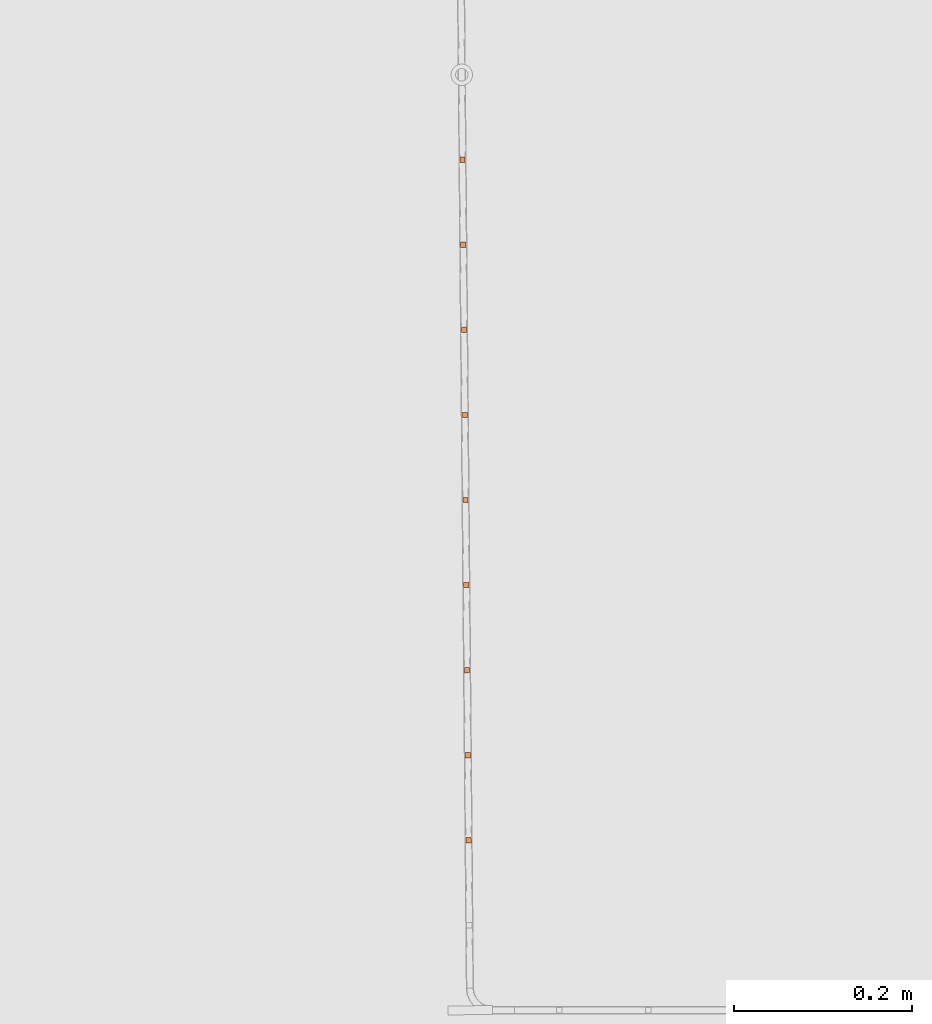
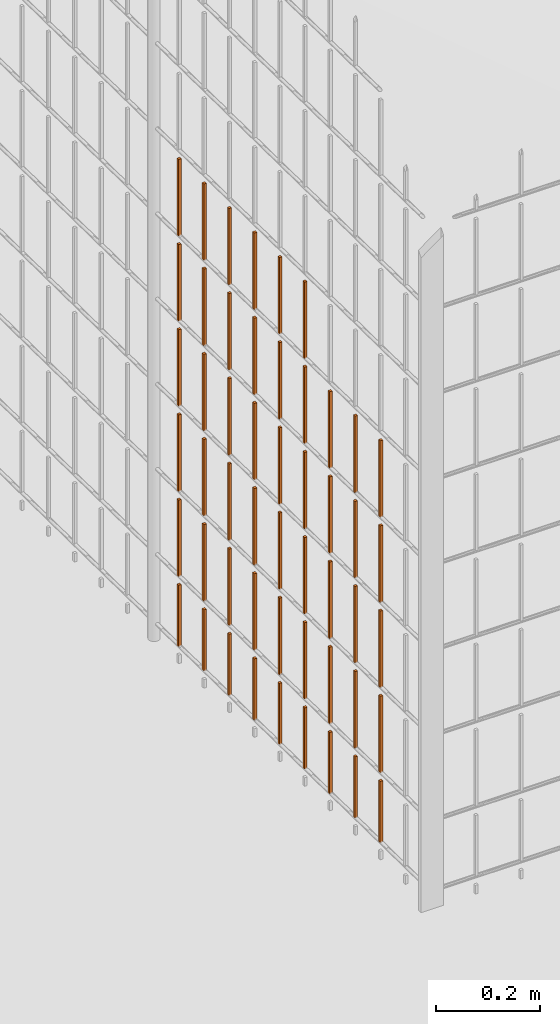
# One storey, part 242 of 1809: 51 proxies, 1 element without a shape of its own.
"""IFC2X3 building model written with IfcOpenShell, lengths in millimetres."""

import ifcopenshell
import ifcopenshell.guid

model = None  # the IFC model being written
_history = None  # IfcOwnerHistory: only IFC2X3 demands one
_inside = {}  # id of a spatial element -> (the spatial element, [elements in it])
_under = {}  # id of a project, library or spatial element -> (it, [spatial elements below it])
_declared = {}  # id of a project -> (the project, [libraries it declares])
_typed = {}  # id of a type object -> (the type object, [elements of that type])
_made_of = {}  # id of a material, layer set ... -> (it, [elements and type objects made of it])


def new_model(schema):
    """Start an empty IFC model of exactly this schema.

    Asked for "IFC4X3", IfcOpenShell would pick the latest addendum, in which some entities
    have other attributes; the version numbers below select the first issue.
    IFC2X3 requires an IfcOwnerHistory on every rooted entity: one is made here for all.
    """
    global model, _history
    if schema == "IFC4X3":
        model = ifcopenshell.file(schema_version=(4, 3, 0, 0))
    else:
        model = ifcopenshell.file(schema=schema)
    _inside.clear()
    _under.clear()
    _declared.clear()
    _typed.clear()
    _made_of.clear()
    _history = None
    if model.schema == "IFC2X3":
        org = make("IfcOrganization", Name="unknown")
        user = make(
            "IfcPersonAndOrganization",
            ThePerson=make("IfcPerson", FamilyName="unknown"),
            TheOrganization=org,
        )
        app = make(
            "IfcApplication",
            ApplicationDeveloper=org,
            Version="unknown",
            ApplicationFullName="unknown",
            ApplicationIdentifier="unknown",
        )
        _history = make(
            "IfcOwnerHistory",
            OwningUser=user,
            OwningApplication=app,
            ChangeAction="ADDED",
            CreationDate=0,
        )
    return model


def make(cls, **values):
    """One entity of the class cls with the attributes given. An attribute that is None is left unset."""
    return model.create_entity(
        cls, **{name: value for name, value in values.items() if value is not None}
    )


def entity(cls, *values):
    """Any entity or typed value of the class cls, its attributes in the order of the schema. None: left unset."""
    e = model.create_entity(cls)
    for i, value in enumerate(values):
        if value is not None:
            e[i] = value
    return e


def rooted(cls, **values):
    """An entity with a GlobalId (a new one), such as an element, a storey or a relation."""
    return make(cls, GlobalId=ifcopenshell.guid.new(), OwnerHistory=_history, **values)


def si_unit(unit_type, name, prefix=None):
    """IfcSIUnit, for example si_unit("LENGTHUNIT", "METRE", prefix="MILLI")."""
    return make("IfcSIUnit", UnitType=unit_type, Prefix=prefix, Name=name)


def converted_unit(unit_type, name, factor, base, dimensions=None, offset=None):
    """IfcConversionBasedUnit, such as the inch: factor (a typed value) times the base unit."""
    return make(
        "IfcConversionBasedUnit"
        if offset is None
        else "IfcConversionBasedUnitWithOffset",
        ConversionOffset=offset,
        Dimensions=None
        if dimensions is None
        else entity("IfcDimensionalExponents", *dimensions),
        UnitType=unit_type,
        Name=name,
        ConversionFactor=make(
            "IfcMeasureWithUnit", ValueComponent=factor, UnitComponent=base
        ),
    )


def derived_unit(unit_type, elements):
    """IfcDerivedUnit: a product of units, each with its exponent."""
    return make(
        "IfcDerivedUnit",
        Elements=[
            make("IfcDerivedUnitElement", Unit=unit, Exponent=power)
            for unit, power in elements
        ],
        UnitType=unit_type,
    )


def money_unit(currency):
    """IfcMonetaryUnit."""
    return make("IfcMonetaryUnit", Currency=currency)


def assignment(units):
    """IfcUnitAssignment: the units of a project."""
    return None if units is None else make("IfcUnitAssignment", Units=units)


def point(xyz):
    """IfcCartesianPoint."""
    return None if xyz is None else make("IfcCartesianPoint", Coordinates=xyz)


def direction(xyz):
    """IfcDirection."""
    return None if xyz is None else make("IfcDirection", DirectionRatios=xyz)


def frame(location, z_axis=None, x_axis=None):
    """IfcAxis2Placement3D, a coordinate frame: its origin and axes. An axis left out is left unset."""
    return make(
        "IfcAxis2Placement3D",
        Location=point(location),
        Axis=direction(z_axis),
        RefDirection=direction(x_axis),
    )


def origin_with_axes():
    """The frame at (0, 0, 0) with the z axis (0, 0, 1) and the x axis (1, 0, 0) written out."""
    return frame((0.0, 0.0, 0.0), z_axis=(0.0, 0.0, 1.0), x_axis=(1.0, 0.0, 0.0))


def place(relative_to, where):
    """IfcLocalPlacement: puts the frame where relative to a parent placement (None: the world)."""
    return make(
        "IfcLocalPlacement", PlacementRelTo=relative_to, RelativePlacement=where
    )


def context(
    kind, dimensions, precision=None, world=None, true_north=None, identifier=None
):
    """IfcGeometricRepresentationContext, for example the 3D "Model" context."""
    return make(
        "IfcGeometricRepresentationContext",
        ContextIdentifier=identifier,
        ContextType=kind,
        CoordinateSpaceDimension=dimensions,
        Precision=precision,
        WorldCoordinateSystem=world,
        TrueNorth=true_north,
    )


def subcontext(parent, identifier, kind, view, scale=None):
    """IfcGeometricRepresentationSubContext, for example "Body" below "Model"."""
    return make(
        "IfcGeometricRepresentationSubContext",
        ContextIdentifier=identifier,
        ContextType=kind,
        ParentContext=parent,
        TargetScale=scale,
        TargetView=view,
    )


def project(units=None, contexts=None):
    """IfcProject with its units and contexts."""
    return rooted(
        "IfcProject",
        Name="project",
        RepresentationContexts=contexts,
        UnitsInContext=assignment(units),
    )


def spatial(cls, under=None, at=None, **own):
    """A site, building, storey or space (cls), placed at a placement, below another one or the project."""
    s = rooted(cls, ObjectPlacement=at, **own)
    if under is not None:
        _under.setdefault(under.id(), (under, []))[1].append(s)
    return s


def faces_of(points, faces, orient=None, outer=None):
    """IfcFace entities. A face is a list of loops; a loop is a list of indices into points, from 0.

    orient and outer hold one flag for each loop. By default every Orientation is true, the
    first loop of a face is its IfcFaceOuterBound and the others are IfcFaceBound.
    """
    made = []
    for i, loops in enumerate(faces):
        bounds = []
        for j, loop in enumerate(loops):
            is_outer = j == 0 if outer is None else outer[i][j]
            bounds.append(
                make(
                    "IfcFaceOuterBound" if is_outer else "IfcFaceBound",
                    Bound=make("IfcPolyLoop", Polygon=[points[k] for k in loop]),
                    Orientation=True if orient is None else orient[i][j],
                )
            )
        made.append(make("IfcFace", Bounds=bounds))
    return made


def faceted_brep(points, faces, orient=None, outer=None, voids=None):
    """IfcFacetedBrep: a solid bounded by flat faces; with voids (closed shells), ...WithVoids."""
    shared = [point(p) for p in points]
    hull = make("IfcClosedShell", CfsFaces=faces_of(shared, faces, orient, outer))
    if voids is None:
        return make("IfcFacetedBrep", Outer=hull)
    return make(
        "IfcFacetedBrepWithVoids",
        Outer=hull,
        Voids=[
            make(cls, CfsFaces=faces_of(shared, fs, o, b)) for cls, fs, o, b in voids
        ],
    )


def shape(context_of_items, identifier, shape_type, items):
    """IfcShapeRepresentation: the items that make up one representation, for example the "Body"."""
    return make(
        "IfcShapeRepresentation",
        ContextOfItems=context_of_items,
        RepresentationIdentifier=identifier,
        RepresentationType=shape_type,
        Items=items,
    )


def source(mapping_origin, context_of_items, identifier, shape_type, items):
    """IfcRepresentationMap: a shape defined once, which mapped items show again and again."""
    return make(
        "IfcRepresentationMap",
        MappingOrigin=mapping_origin,
        MappedRepresentation=shape(context_of_items, identifier, shape_type, items),
    )


def transform(
    local_origin,
    x_axis=None,
    y_axis=None,
    z_axis=None,
    scale=None,
    scale2=None,
    scale3=None,
    uniform=True,
):
    """IfcCartesianTransformationOperator3D, or its non-uniform kind. x_axis, y_axis, z_axis: its Axis1, 2, 3."""
    if uniform:
        return make(
            "IfcCartesianTransformationOperator3D",
            Axis1=direction(x_axis),
            Axis2=direction(y_axis),
            LocalOrigin=point(local_origin),
            Scale=scale,
            Axis3=direction(z_axis),
        )
    return make(
        "IfcCartesianTransformationOperator3DnonUniform",
        Axis1=direction(x_axis),
        Axis2=direction(y_axis),
        LocalOrigin=point(local_origin),
        Scale=scale,
        Axis3=direction(z_axis),
        Scale2=scale2,
        Scale3=scale3,
    )


def mapped(mapping_source, mapping_target):
    """IfcMappedItem: shows the shape of a source again, moved by a transform."""
    return make(
        "IfcMappedItem", MappingSource=mapping_source, MappingTarget=mapping_target
    )


def material(Name=None, Category=None):
    """IfcMaterial."""
    return make("IfcMaterial", Name=Name, Category=Category)


def made_of(thing, what):
    """Note that an element or type object is made of a material, layer set ...; save() writes the relation."""
    if what is not None:
        _made_of.setdefault(what.id(), (what, []))[1].append(thing)
    return thing


def type_object(cls, material=None, **own):
    """A type object (cls), such as IfcWallType, which elements share."""
    return made_of(rooted(cls, **own), material)


def element(
    cls,
    number,
    at=None,
    inside=None,
    cuts=None,
    type_object=None,
    material=None,
    context=None,
    identifier="Body",
    shape_type=None,
    held_by="IfcProductDefinitionShape",
    body=None,
    shapes=None,
    **own,
):
    """One element of the class cls, such as IfcWall. Its Tag is "e" and its number.

    at: its placement. inside: the storey or other place that contains it. cuts: it is an
    opening in that element (IfcRelVoidsElement). A single representation is given by context,
    identifier, shape_type and body (its items); several are given by shapes. held_by: the class
    of the entity that holds the representations. save() writes the other relations.
    """
    e = rooted(cls, Tag="e%d" % number, ObjectPlacement=at, **own)
    if body is not None:
        shapes = [shape(context, identifier, shape_type, body)]
    if shapes is not None:
        e.Representation = make(held_by, Representations=shapes)
    if inside is not None:
        _inside.setdefault(inside.id(), (inside, []))[1].append(e)
    if cuts is not None:
        rooted(
            "IfcRelVoidsElement", RelatingBuildingElement=cuts, RelatedOpeningElement=e
        )
    if type_object is not None:
        _typed.setdefault(type_object.id(), (type_object, []))[1].append(e)
    return made_of(e, material)


def aggregate(whole, parts):
    """IfcRelAggregates: a whole, such as a stair, and the parts it consists of."""
    return rooted("IfcRelAggregates", RelatingObject=whole, RelatedObjects=parts)


def save(model, path):
    """Write the relations noted so far, then the file.

    IfcRelAggregates (storeys below a building ...), IfcRelContainedInSpatialStructure (elements
    in a storey), IfcRelDefinesByType, IfcRelAssociatesMaterial and IfcRelDeclares: one each for
    every whole, place, type object, material and project.
    """
    for whole, parts in _under.values():
        aggregate(whole, parts)
    for where, things in _inside.values():
        rooted(
            "IfcRelContainedInSpatialStructure",
            RelatedElements=things,
            RelatingStructure=where,
        )
    for kind, things in _typed.values():
        rooted("IfcRelDefinesByType", RelatedObjects=things, RelatingType=kind)
    for what, things in _made_of.values():
        rooted("IfcRelAssociatesMaterial", RelatedObjects=things, RelatingMaterial=what)
    for by, libraries in _declared.values():
        rooted("IfcRelDeclares", RelatingContext=by, RelatedDefinitions=libraries)
    model.write(path)


model = new_model("IFC2X3")

# Units and contexts
model_context = context("Model", 3, precision=0.01, world=origin_with_axes(), true_north=direction((0.0, 1.0)))
body_context = subcontext(model_context, "Body", "Model", "MODEL_VIEW")
ifc_project = project(units=[si_unit("LENGTHUNIT", "METRE", prefix="MILLI"), si_unit("AREAUNIT", "SQUARE_METRE"), si_unit("VOLUMEUNIT", "CUBIC_METRE"), converted_unit("PLANEANGLEUNIT", "DEGREE", entity("IfcPlaneAngleMeasure", 0.0174532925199), si_unit("PLANEANGLEUNIT", "RADIAN"), dimensions=[0, 0, 0, 0, 0, 0, 0]), si_unit("SOLIDANGLEUNIT", "STERADIAN"), money_unit("EUR"), converted_unit("TIMEUNIT", "Year", entity("IfcTimeMeasure", 31556926.0), si_unit("TIMEUNIT", "SECOND"), dimensions=[0, 0, 1, 0, 0, 0, 0]), si_unit("MASSUNIT", "GRAM", prefix="KILO"), si_unit("THERMODYNAMICTEMPERATUREUNIT", "DEGREE_CELSIUS"), si_unit("LUMINOUSINTENSITYUNIT", "LUMEN"), si_unit("ENERGYUNIT", "JOULE", prefix="MEGA"), derived_unit("THERMALCONDUCTANCEUNIT", [(si_unit("POWERUNIT", "WATT"), 1), (si_unit("LENGTHUNIT", "METRE"), -1), (si_unit("THERMODYNAMICTEMPERATUREUNIT", "KELVIN"), -1)]), derived_unit("SPECIFICHEATCAPACITYUNIT", [(si_unit("ENERGYUNIT", "JOULE"), 1), (si_unit("MASSUNIT", "GRAM", prefix="KILO"), -1), (si_unit("THERMODYNAMICTEMPERATUREUNIT", "KELVIN"), -1)]), derived_unit("MASSDENSITYUNIT", [(si_unit("MASSUNIT", "GRAM", prefix="KILO"), 1), (si_unit("VOLUMEUNIT", "CUBIC_METRE"), -1)])], contexts=[model_context])

# Site, building, storey
site_placement = place(None, origin_with_axes())
site = spatial("IfcSite", under=ifc_project, at=site_placement, Name="Politse- ja Piirivalveameti ning Päästeameti ühishoone", CompositionType="ELEMENT")
building_placement = place(site_placement, origin_with_axes())
building = spatial("IfcBuilding", under=site, at=building_placement, Name="Politse- ja Piirivalveameti ning Päästeameti ühishoone", CompositionType="ELEMENT")
storey_placement = place(building_placement, origin_with_axes())
storey = spatial("IfcBuildingStorey", under=building, at=storey_placement, Name="Esimene korrus", CompositionType="ELEMENT", Elevation=0.0)

# Proxies
building_element_proxy_type_1 = type_object("IfcBuildingElementProxyType", Name="Railing Type", PredefinedType="NOTDEFINED")
proxy_1_placement = place(storey_placement, frame((-16775.8601056, 25156.7555964, 0.0), z_axis=(0.0, 0.0, 1.0), x_axis=(1.0, 0.0, 0.0)))
proxy_1 = element("IfcBuildingElementProxy", 1, at=proxy_1_placement, inside=storey, type_object=building_element_proxy_type_1, Name="KENNELI PIIRE")
ifc_material = material(Name="Teras - Konstruktsioon")
building_element_proxy_type_2 = type_object("IfcBuildingElementProxyType", Name="IfcBuildingElementProxy", PredefinedType="NOTDEFINED")
shared_shape_1 = source(origin_with_axes(), body_context, "Body", "Brep", [
    faceted_brep([(3.0, 3.0, 0.0), (-3.0, 3.0, 0.0), (-3.0, 3.0, 180.000012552), (3.0, 3.0, 180.000012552), (3.0, -3.0, 0.0), (-3.0, -3.0, 0.0), (-3.0, -3.0, 180.000012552), (3.0, -3.0, 180.000012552)], [[[0, 1, 2, 3]], [[0, 4, 5, 1]], [[1, 5, 6, 2]], [[3, 2, 6, 7]], [[4, 0, 3, 7]], [[5, 4, 7, 6]]]),
])
proxy_2_placement = place(proxy_1_placement, frame((-4890.75510065, -15114.5338379, 403.999987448), z_axis=(0.0, 0.0, 1.0), x_axis=(1.0, 0.0, 0.0)))
proxy_2 = element("IfcBuildingElementProxy", 2, at=proxy_2_placement, type_object=building_element_proxy_type_2, material=ifc_material, Name="BALUSTER - 001", context=body_context, shape_type="MappedRepresentation", body=[
    mapped(shared_shape_1, transform((0.0, 0.0, 0.0), x_axis=(-0.999960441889, -0.00889464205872, 0.0), y_axis=(0.00889464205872, -0.999960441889, 0.0), z_axis=(0.0, 0.0, 1.0))),
])
proxy_3_placement = place(proxy_1_placement, frame((-4889.90624565, -15209.9644821, 403.999987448), z_axis=(0.0, 0.0, 1.0), x_axis=(1.0, 0.0, 0.0)))
proxy_3 = element("IfcBuildingElementProxy", 3, at=proxy_3_placement, type_object=building_element_proxy_type_2, material=ifc_material, Name="BALUSTER - 001", context=body_context, shape_type="MappedRepresentation", body=[
    mapped(shared_shape_1, transform((0.0, 0.0, 0.0), x_axis=(-0.999960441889, -0.00889464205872, 0.0), y_axis=(0.00889464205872, -0.999960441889, 0.0), z_axis=(0.0, 0.0, 1.0))),
])
proxy_4_placement = place(proxy_1_placement, frame((-4889.05739065, -15305.3951263, 403.999987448), z_axis=(0.0, 0.0, 1.0), x_axis=(1.0, 0.0, 0.0)))
proxy_4 = element("IfcBuildingElementProxy", 4, at=proxy_4_placement, type_object=building_element_proxy_type_2, material=ifc_material, Name="BALUSTER - 001", context=body_context, shape_type="MappedRepresentation", body=[
    mapped(shared_shape_1, transform((0.0, 0.0, 0.0), x_axis=(-0.999960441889, -0.00889464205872, 0.0), y_axis=(0.00889464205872, -0.999960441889, 0.0), z_axis=(0.0, 0.0, 1.0))),
])
proxy_5_placement = place(proxy_1_placement, frame((-4888.20853565, -15400.8257705, 403.999987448), z_axis=(0.0, 0.0, 1.0), x_axis=(1.0, 0.0, 0.0)))
proxy_5 = element("IfcBuildingElementProxy", 5, at=proxy_5_placement, type_object=building_element_proxy_type_2, material=ifc_material, Name="BALUSTER - 001", context=body_context, shape_type="MappedRepresentation", body=[
    mapped(shared_shape_1, transform((0.0, 0.0, 0.0), x_axis=(-0.999960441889, -0.00889464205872, 0.0), y_axis=(0.00889464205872, -0.999960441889, 0.0), z_axis=(0.0, 0.0, 1.0))),
])
proxy_6_placement = place(proxy_1_placement, frame((-4887.35968065, -15496.2564146, 403.999987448), z_axis=(0.0, 0.0, 1.0), x_axis=(1.0, 0.0, 0.0)))
proxy_6 = element("IfcBuildingElementProxy", 6, at=proxy_6_placement, type_object=building_element_proxy_type_2, material=ifc_material, Name="BALUSTER - 001", context=body_context, shape_type="MappedRepresentation", body=[
    mapped(shared_shape_1, transform((0.0, 0.0, 0.0), x_axis=(-0.999960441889, -0.00889464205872, 0.0), y_axis=(0.00889464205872, -0.999960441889, 0.0), z_axis=(0.0, 0.0, 1.0))),
])
proxy_7_placement = place(proxy_1_placement, frame((-4886.51082565, -15591.6870588, 403.999987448), z_axis=(0.0, 0.0, 1.0), x_axis=(1.0, 0.0, 0.0)))
proxy_7 = element("IfcBuildingElementProxy", 7, at=proxy_7_placement, type_object=building_element_proxy_type_2, material=ifc_material, Name="BALUSTER - 001", context=body_context, shape_type="MappedRepresentation", body=[
    mapped(shared_shape_1, transform((0.0, 0.0, 0.0), x_axis=(-0.999960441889, -0.00889464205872, 0.0), y_axis=(0.00889464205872, -0.999960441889, 0.0), z_axis=(0.0, 0.0, 1.0))),
])
proxy_8_placement = place(proxy_1_placement, frame((-4885.66197065, -15687.117703, 403.999987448), z_axis=(0.0, 0.0, 1.0), x_axis=(1.0, 0.0, 0.0)))
proxy_8 = element("IfcBuildingElementProxy", 8, at=proxy_8_placement, type_object=building_element_proxy_type_2, material=ifc_material, Name="BALUSTER - 001", context=body_context, shape_type="MappedRepresentation", body=[
    mapped(shared_shape_1, transform((0.0, 0.0, 0.0), x_axis=(-0.999960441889, -0.00889464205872, 0.0), y_axis=(0.00889464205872, -0.999960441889, 0.0), z_axis=(0.0, 0.0, 1.0))),
])
proxy_9_placement = place(proxy_1_placement, frame((-4884.81311565, -15782.5483472, 403.999987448), z_axis=(0.0, 0.0, 1.0), x_axis=(1.0, 0.0, 0.0)))
proxy_9 = element("IfcBuildingElementProxy", 9, at=proxy_9_placement, type_object=building_element_proxy_type_2, material=ifc_material, Name="BALUSTER - 001", context=body_context, shape_type="MappedRepresentation", body=[
    mapped(shared_shape_1, transform((0.0, 0.0, 0.0), x_axis=(-0.999960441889, -0.00889464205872, 0.0), y_axis=(0.00889464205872, -0.999960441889, 0.0), z_axis=(0.0, 0.0, 1.0))),
])
proxy_10_placement = place(proxy_1_placement, frame((-4883.96426065, -15877.9789914, 403.999987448), z_axis=(0.0, 0.0, 1.0), x_axis=(1.0, 0.0, 0.0)))
proxy_10 = element("IfcBuildingElementProxy", 10, at=proxy_10_placement, type_object=building_element_proxy_type_2, material=ifc_material, Name="BALUSTER - 001", context=body_context, shape_type="MappedRepresentation", body=[
    mapped(shared_shape_1, transform((0.0, 0.0, 0.0), x_axis=(-0.999960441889, -0.00889464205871, 0.0), y_axis=(0.00889464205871, -0.999960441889, 0.0), z_axis=(0.0, 0.0, 1.0))),
])
proxy_11_placement = place(proxy_1_placement, frame((-4890.75510065, -15114.5338379, 803.999987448), z_axis=(0.0, 0.0, 1.0), x_axis=(1.0, 0.0, 0.0)))
proxy_11 = element("IfcBuildingElementProxy", 11, at=proxy_11_placement, type_object=building_element_proxy_type_2, material=ifc_material, Name="BALUSTER - 001", context=body_context, shape_type="MappedRepresentation", body=[
    mapped(shared_shape_1, transform((0.0, 0.0, 0.0), x_axis=(-0.999960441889, -0.00889464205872, 0.0), y_axis=(0.00889464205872, -0.999960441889, 0.0), z_axis=(0.0, 0.0, 1.0))),
])
proxy_12_placement = place(proxy_1_placement, frame((-4889.90624565, -15209.9644821, 803.999987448), z_axis=(0.0, 0.0, 1.0), x_axis=(1.0, 0.0, 0.0)))
proxy_12 = element("IfcBuildingElementProxy", 12, at=proxy_12_placement, type_object=building_element_proxy_type_2, material=ifc_material, Name="BALUSTER - 001", context=body_context, shape_type="MappedRepresentation", body=[
    mapped(shared_shape_1, transform((0.0, 0.0, 0.0), x_axis=(-0.999960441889, -0.00889464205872, 0.0), y_axis=(0.00889464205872, -0.999960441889, 0.0), z_axis=(0.0, 0.0, 1.0))),
])
proxy_13_placement = place(proxy_1_placement, frame((-4889.05739065, -15305.3951263, 803.999987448), z_axis=(0.0, 0.0, 1.0), x_axis=(1.0, 0.0, 0.0)))
proxy_13 = element("IfcBuildingElementProxy", 13, at=proxy_13_placement, type_object=building_element_proxy_type_2, material=ifc_material, Name="BALUSTER - 001", context=body_context, shape_type="MappedRepresentation", body=[
    mapped(shared_shape_1, transform((0.0, 0.0, 0.0), x_axis=(-0.999960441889, -0.00889464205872, 0.0), y_axis=(0.00889464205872, -0.999960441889, 0.0), z_axis=(0.0, 0.0, 1.0))),
])
proxy_14_placement = place(proxy_1_placement, frame((-4888.20853565, -15400.8257705, 803.999987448), z_axis=(0.0, 0.0, 1.0), x_axis=(1.0, 0.0, 0.0)))
proxy_14 = element("IfcBuildingElementProxy", 14, at=proxy_14_placement, type_object=building_element_proxy_type_2, material=ifc_material, Name="BALUSTER - 001", context=body_context, shape_type="MappedRepresentation", body=[
    mapped(shared_shape_1, transform((0.0, 0.0, 0.0), x_axis=(-0.999960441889, -0.00889464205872, 0.0), y_axis=(0.00889464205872, -0.999960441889, 0.0), z_axis=(0.0, 0.0, 1.0))),
])
proxy_15_placement = place(proxy_1_placement, frame((-4887.35968065, -15496.2564146, 803.999987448), z_axis=(0.0, 0.0, 1.0), x_axis=(1.0, 0.0, 0.0)))
proxy_15 = element("IfcBuildingElementProxy", 15, at=proxy_15_placement, type_object=building_element_proxy_type_2, material=ifc_material, Name="BALUSTER - 001", context=body_context, shape_type="MappedRepresentation", body=[
    mapped(shared_shape_1, transform((0.0, 0.0, 0.0), x_axis=(-0.999960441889, -0.00889464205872, 0.0), y_axis=(0.00889464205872, -0.999960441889, 0.0), z_axis=(0.0, 0.0, 1.0))),
])
proxy_16_placement = place(proxy_1_placement, frame((-4886.51082565, -15591.6870588, 803.999987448), z_axis=(0.0, 0.0, 1.0), x_axis=(1.0, 0.0, 0.0)))
proxy_16 = element("IfcBuildingElementProxy", 16, at=proxy_16_placement, type_object=building_element_proxy_type_2, material=ifc_material, Name="BALUSTER - 001", context=body_context, shape_type="MappedRepresentation", body=[
    mapped(shared_shape_1, transform((0.0, 0.0, 0.0), x_axis=(-0.999960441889, -0.00889464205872, 0.0), y_axis=(0.00889464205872, -0.999960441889, 0.0), z_axis=(0.0, 0.0, 1.0))),
])
proxy_17_placement = place(proxy_1_placement, frame((-4885.66197065, -15687.117703, 803.999987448), z_axis=(0.0, 0.0, 1.0), x_axis=(1.0, 0.0, 0.0)))
proxy_17 = element("IfcBuildingElementProxy", 17, at=proxy_17_placement, type_object=building_element_proxy_type_2, material=ifc_material, Name="BALUSTER - 001", context=body_context, shape_type="MappedRepresentation", body=[
    mapped(shared_shape_1, transform((0.0, 0.0, 0.0), x_axis=(-0.999960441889, -0.00889464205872, 0.0), y_axis=(0.00889464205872, -0.999960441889, 0.0), z_axis=(0.0, 0.0, 1.0))),
])
proxy_18_placement = place(proxy_1_placement, frame((-4884.81311565, -15782.5483472, 803.999987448), z_axis=(0.0, 0.0, 1.0), x_axis=(1.0, 0.0, 0.0)))
proxy_18 = element("IfcBuildingElementProxy", 18, at=proxy_18_placement, type_object=building_element_proxy_type_2, material=ifc_material, Name="BALUSTER - 001", context=body_context, shape_type="MappedRepresentation", body=[
    mapped(shared_shape_1, transform((0.0, 0.0, 0.0), x_axis=(-0.999960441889, -0.00889464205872, 0.0), y_axis=(0.00889464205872, -0.999960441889, 0.0), z_axis=(0.0, 0.0, 1.0))),
])
proxy_19_placement = place(proxy_1_placement, frame((-4883.96426065, -15877.9789914, 803.999987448), z_axis=(0.0, 0.0, 1.0), x_axis=(1.0, 0.0, 0.0)))
proxy_19 = element("IfcBuildingElementProxy", 19, at=proxy_19_placement, type_object=building_element_proxy_type_2, material=ifc_material, Name="BALUSTER - 001", context=body_context, shape_type="MappedRepresentation", body=[
    mapped(shared_shape_1, transform((0.0, 0.0, 0.0), x_axis=(-0.999960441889, -0.00889464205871, 0.0), y_axis=(0.00889464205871, -0.999960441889, 0.0), z_axis=(0.0, 0.0, 1.0))),
])
proxy_20_placement = place(proxy_1_placement, frame((-4890.75510065, -15114.5338379, 1003.99998745), z_axis=(0.0, 0.0, 1.0), x_axis=(1.0, 0.0, 0.0)))
proxy_20 = element("IfcBuildingElementProxy", 20, at=proxy_20_placement, type_object=building_element_proxy_type_2, material=ifc_material, Name="BALUSTER - 001", context=body_context, shape_type="MappedRepresentation", body=[
    mapped(shared_shape_1, transform((0.0, 0.0, 0.0), x_axis=(-0.999960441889, -0.00889464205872, 0.0), y_axis=(0.00889464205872, -0.999960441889, 0.0), z_axis=(0.0, 0.0, 1.0))),
])
proxy_21_placement = place(proxy_1_placement, frame((-4889.90624565, -15209.9644821, 1003.99998745), z_axis=(0.0, 0.0, 1.0), x_axis=(1.0, 0.0, 0.0)))
proxy_21 = element("IfcBuildingElementProxy", 21, at=proxy_21_placement, type_object=building_element_proxy_type_2, material=ifc_material, Name="BALUSTER - 001", context=body_context, shape_type="MappedRepresentation", body=[
    mapped(shared_shape_1, transform((0.0, 0.0, 0.0), x_axis=(-0.999960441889, -0.00889464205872, 0.0), y_axis=(0.00889464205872, -0.999960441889, 0.0), z_axis=(0.0, 0.0, 1.0))),
])
proxy_22_placement = place(proxy_1_placement, frame((-4889.05739065, -15305.3951263, 1003.99998745), z_axis=(0.0, 0.0, 1.0), x_axis=(1.0, 0.0, 0.0)))
proxy_22 = element("IfcBuildingElementProxy", 22, at=proxy_22_placement, type_object=building_element_proxy_type_2, material=ifc_material, Name="BALUSTER - 001", context=body_context, shape_type="MappedRepresentation", body=[
    mapped(shared_shape_1, transform((0.0, 0.0, 0.0), x_axis=(-0.999960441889, -0.00889464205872, 0.0), y_axis=(0.00889464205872, -0.999960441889, 0.0), z_axis=(0.0, 0.0, 1.0))),
])
proxy_23_placement = place(proxy_1_placement, frame((-4888.20853565, -15400.8257705, 1003.99998745), z_axis=(0.0, 0.0, 1.0), x_axis=(1.0, 0.0, 0.0)))
proxy_23 = element("IfcBuildingElementProxy", 23, at=proxy_23_placement, type_object=building_element_proxy_type_2, material=ifc_material, Name="BALUSTER - 001", context=body_context, shape_type="MappedRepresentation", body=[
    mapped(shared_shape_1, transform((0.0, 0.0, 0.0), x_axis=(-0.999960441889, -0.00889464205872, 0.0), y_axis=(0.00889464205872, -0.999960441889, 0.0), z_axis=(0.0, 0.0, 1.0))),
])
proxy_24_placement = place(proxy_1_placement, frame((-4887.35968065, -15496.2564146, 1003.99998745), z_axis=(0.0, 0.0, 1.0), x_axis=(1.0, 0.0, 0.0)))
proxy_24 = element("IfcBuildingElementProxy", 24, at=proxy_24_placement, type_object=building_element_proxy_type_2, material=ifc_material, Name="BALUSTER - 001", context=body_context, shape_type="MappedRepresentation", body=[
    mapped(shared_shape_1, transform((0.0, 0.0, 0.0), x_axis=(-0.999960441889, -0.00889464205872, 0.0), y_axis=(0.00889464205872, -0.999960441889, 0.0), z_axis=(0.0, 0.0, 1.0))),
])
proxy_25_placement = place(proxy_1_placement, frame((-4886.51082565, -15591.6870588, 1003.99998745), z_axis=(0.0, 0.0, 1.0), x_axis=(1.0, 0.0, 0.0)))
proxy_25 = element("IfcBuildingElementProxy", 25, at=proxy_25_placement, type_object=building_element_proxy_type_2, material=ifc_material, Name="BALUSTER - 001", context=body_context, shape_type="MappedRepresentation", body=[
    mapped(shared_shape_1, transform((0.0, 0.0, 0.0), x_axis=(-0.999960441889, -0.00889464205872, 0.0), y_axis=(0.00889464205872, -0.999960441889, 0.0), z_axis=(0.0, 0.0, 1.0))),
])
shared_shape_2 = source(origin_with_axes(), body_context, "Body", "Brep", [
    faceted_brep([(3.0, 3.0, 0.0), (-3.0, 3.0, 0.0), (-3.0, 3.0, 144.000012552), (3.0, 3.0, 144.000012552), (3.0, -3.0, 0.0), (-3.0, -3.0, 0.0), (-3.0, -3.0, 144.000012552), (3.0, -3.0, 144.000012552)], [[[0, 1, 2, 3]], [[0, 4, 5, 1]], [[1, 5, 6, 2]], [[3, 2, 6, 7]], [[4, 0, 3, 7]], [[5, 4, 7, 6]]]),
])
proxy_26_placement = place(proxy_1_placement, frame((-4890.75510065, -15114.5338379, 39.9999874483), z_axis=(0.0, 0.0, 1.0), x_axis=(1.0, 0.0, 0.0)))
proxy_26 = element("IfcBuildingElementProxy", 26, at=proxy_26_placement, type_object=building_element_proxy_type_2, material=ifc_material, Name="BALUSTER - 001", context=body_context, shape_type="MappedRepresentation", body=[
    mapped(shared_shape_2, transform((0.0, 0.0, 0.0), x_axis=(-0.999960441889, -0.00889464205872, 0.0), y_axis=(0.00889464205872, -0.999960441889, 0.0), z_axis=(0.0, 0.0, 1.0))),
])
proxy_27_placement = place(proxy_1_placement, frame((-4889.90624565, -15209.9644821, 39.9999874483), z_axis=(0.0, 0.0, 1.0), x_axis=(1.0, 0.0, 0.0)))
proxy_27 = element("IfcBuildingElementProxy", 27, at=proxy_27_placement, type_object=building_element_proxy_type_2, material=ifc_material, Name="BALUSTER - 001", context=body_context, shape_type="MappedRepresentation", body=[
    mapped(shared_shape_2, transform((0.0, 0.0, 0.0), x_axis=(-0.999960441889, -0.00889464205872, 0.0), y_axis=(0.00889464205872, -0.999960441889, 0.0), z_axis=(0.0, 0.0, 1.0))),
])
proxy_28_placement = place(proxy_1_placement, frame((-4889.05739065, -15305.3951263, 39.9999874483), z_axis=(0.0, 0.0, 1.0), x_axis=(1.0, 0.0, 0.0)))
proxy_28 = element("IfcBuildingElementProxy", 28, at=proxy_28_placement, type_object=building_element_proxy_type_2, material=ifc_material, Name="BALUSTER - 001", context=body_context, shape_type="MappedRepresentation", body=[
    mapped(shared_shape_2, transform((0.0, 0.0, 0.0), x_axis=(-0.999960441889, -0.00889464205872, 0.0), y_axis=(0.00889464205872, -0.999960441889, 0.0), z_axis=(0.0, 0.0, 1.0))),
])
proxy_29_placement = place(proxy_1_placement, frame((-4888.20853565, -15400.8257705, 39.9999874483), z_axis=(0.0, 0.0, 1.0), x_axis=(1.0, 0.0, 0.0)))
proxy_29 = element("IfcBuildingElementProxy", 29, at=proxy_29_placement, type_object=building_element_proxy_type_2, material=ifc_material, Name="BALUSTER - 001", context=body_context, shape_type="MappedRepresentation", body=[
    mapped(shared_shape_2, transform((0.0, 0.0, 0.0), x_axis=(-0.999960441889, -0.00889464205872, 0.0), y_axis=(0.00889464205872, -0.999960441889, 0.0), z_axis=(0.0, 0.0, 1.0))),
])
proxy_30_placement = place(proxy_1_placement, frame((-4887.35968065, -15496.2564146, 39.9999874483), z_axis=(0.0, 0.0, 1.0), x_axis=(1.0, 0.0, 0.0)))
proxy_30 = element("IfcBuildingElementProxy", 30, at=proxy_30_placement, type_object=building_element_proxy_type_2, material=ifc_material, Name="BALUSTER - 001", context=body_context, shape_type="MappedRepresentation", body=[
    mapped(shared_shape_2, transform((0.0, 0.0, 0.0), x_axis=(-0.999960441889, -0.00889464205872, 0.0), y_axis=(0.00889464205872, -0.999960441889, 0.0), z_axis=(0.0, 0.0, 1.0))),
])
proxy_31_placement = place(proxy_1_placement, frame((-4886.51082565, -15591.6870588, 39.9999874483), z_axis=(0.0, 0.0, 1.0), x_axis=(1.0, 0.0, 0.0)))
proxy_31 = element("IfcBuildingElementProxy", 31, at=proxy_31_placement, type_object=building_element_proxy_type_2, material=ifc_material, Name="BALUSTER - 001", context=body_context, shape_type="MappedRepresentation", body=[
    mapped(shared_shape_2, transform((0.0, 0.0, 0.0), x_axis=(-0.999960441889, -0.00889464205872, 0.0), y_axis=(0.00889464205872, -0.999960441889, 0.0), z_axis=(0.0, 0.0, 1.0))),
])
proxy_32_placement = place(proxy_1_placement, frame((-4885.66197065, -15687.117703, 39.9999874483), z_axis=(0.0, 0.0, 1.0), x_axis=(1.0, 0.0, 0.0)))
proxy_32 = element("IfcBuildingElementProxy", 32, at=proxy_32_placement, type_object=building_element_proxy_type_2, material=ifc_material, Name="BALUSTER - 001", context=body_context, shape_type="MappedRepresentation", body=[
    mapped(shared_shape_2, transform((0.0, 0.0, 0.0), x_axis=(-0.999960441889, -0.00889464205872, 0.0), y_axis=(0.00889464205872, -0.999960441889, 0.0), z_axis=(0.0, 0.0, 1.0))),
])
proxy_33_placement = place(proxy_1_placement, frame((-4884.81311565, -15782.5483472, 39.9999874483), z_axis=(0.0, 0.0, 1.0), x_axis=(1.0, 0.0, 0.0)))
proxy_33 = element("IfcBuildingElementProxy", 33, at=proxy_33_placement, type_object=building_element_proxy_type_2, material=ifc_material, Name="BALUSTER - 001", context=body_context, shape_type="MappedRepresentation", body=[
    mapped(shared_shape_2, transform((0.0, 0.0, 0.0), x_axis=(-0.999960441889, -0.00889464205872, 0.0), y_axis=(0.00889464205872, -0.999960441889, 0.0), z_axis=(0.0, 0.0, 1.0))),
])
proxy_34_placement = place(proxy_1_placement, frame((-4883.96426065, -15877.9789914, 39.9999874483), z_axis=(0.0, 0.0, 1.0), x_axis=(1.0, 0.0, 0.0)))
proxy_34 = element("IfcBuildingElementProxy", 34, at=proxy_34_placement, type_object=building_element_proxy_type_2, material=ifc_material, Name="BALUSTER - 001", context=body_context, shape_type="MappedRepresentation", body=[
    mapped(shared_shape_2, transform((0.0, 0.0, 0.0), x_axis=(-0.999960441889, -0.00889464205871, 0.0), y_axis=(0.00889464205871, -0.999960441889, 0.0), z_axis=(0.0, 0.0, 1.0))),
])
shared_shape_3 = source(origin_with_axes(), body_context, "Body", "Brep", [
    faceted_brep([(3.0, 3.0, 0.0), (-3.0, 3.0, 0.0), (-3.0, 3.0, 180.000012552), (3.0, 3.0, 180.000012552), (3.0, -3.0, 0.0), (-3.0, -3.0, 0.0), (-3.0, -3.0, 180.000012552), (3.0, -3.0, 180.000012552)], [[[0, 1, 2, 3]], [[0, 4, 5, 1]], [[1, 5, 6, 2]], [[3, 2, 6, 7]], [[4, 0, 3, 7]], [[5, 4, 7, 6]]]),
])
proxy_35_placement = place(proxy_1_placement, frame((-4889.90624565, -15209.9644821, 203.999987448), z_axis=(0.0, 0.0, 1.0), x_axis=(1.0, 0.0, 0.0)))
proxy_35 = element("IfcBuildingElementProxy", 35, at=proxy_35_placement, type_object=building_element_proxy_type_2, material=ifc_material, Name="BALUSTER - 001", context=body_context, shape_type="MappedRepresentation", body=[
    mapped(shared_shape_3, transform((0.0, 0.0, 0.0), x_axis=(-0.999960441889, -0.00889464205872, 0.0), y_axis=(0.00889464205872, -0.999960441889, 0.0), z_axis=(0.0, 0.0, 1.0))),
])
shared_shape_4 = source(origin_with_axes(), body_context, "Body", "Brep", [
    faceted_brep([(3.0, 3.0, 0.0), (-3.0, 3.0, 0.0), (-3.0, 3.0, 180.000012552), (3.0, 3.0, 180.000012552), (3.0, -3.0, 0.0), (-3.0, -3.0, 0.0), (-3.0, -3.0, 180.000012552), (3.0, -3.0, 180.000012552)], [[[0, 1, 2, 3]], [[0, 4, 5, 1]], [[1, 5, 6, 2]], [[3, 2, 6, 7]], [[4, 0, 3, 7]], [[5, 4, 7, 6]]]),
])
proxy_36_placement = place(proxy_1_placement, frame((-4890.75510065, -15114.5338379, 203.999987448), z_axis=(0.0, 0.0, 1.0), x_axis=(1.0, 0.0, 0.0)))
proxy_36 = element("IfcBuildingElementProxy", 36, at=proxy_36_placement, type_object=building_element_proxy_type_2, material=ifc_material, Name="BALUSTER - 001", context=body_context, shape_type="MappedRepresentation", body=[
    mapped(shared_shape_4, transform((0.0, 0.0, 0.0), x_axis=(-0.999960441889, -0.00889464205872, 0.0), y_axis=(0.00889464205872, -0.999960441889, 0.0), z_axis=(0.0, 0.0, 1.0))),
])
proxy_37_placement = place(proxy_1_placement, frame((-4889.05739065, -15305.3951263, 203.999987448), z_axis=(0.0, 0.0, 1.0), x_axis=(1.0, 0.0, 0.0)))
proxy_37 = element("IfcBuildingElementProxy", 37, at=proxy_37_placement, type_object=building_element_proxy_type_2, material=ifc_material, Name="BALUSTER - 001", context=body_context, shape_type="MappedRepresentation", body=[
    mapped(shared_shape_4, transform((0.0, 0.0, 0.0), x_axis=(-0.999960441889, -0.00889464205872, 0.0), y_axis=(0.00889464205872, -0.999960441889, 0.0), z_axis=(0.0, 0.0, 1.0))),
])
proxy_38_placement = place(proxy_1_placement, frame((-4888.20853565, -15400.8257705, 203.999987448), z_axis=(0.0, 0.0, 1.0), x_axis=(1.0, 0.0, 0.0)))
proxy_38 = element("IfcBuildingElementProxy", 38, at=proxy_38_placement, type_object=building_element_proxy_type_2, material=ifc_material, Name="BALUSTER - 001", context=body_context, shape_type="MappedRepresentation", body=[
    mapped(shared_shape_4, transform((0.0, 0.0, 0.0), x_axis=(-0.999960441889, -0.00889464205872, 0.0), y_axis=(0.00889464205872, -0.999960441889, 0.0), z_axis=(0.0, 0.0, 1.0))),
])
proxy_39_placement = place(proxy_1_placement, frame((-4887.35968065, -15496.2564146, 203.999987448), z_axis=(0.0, 0.0, 1.0), x_axis=(1.0, 0.0, 0.0)))
proxy_39 = element("IfcBuildingElementProxy", 39, at=proxy_39_placement, type_object=building_element_proxy_type_2, material=ifc_material, Name="BALUSTER - 001", context=body_context, shape_type="MappedRepresentation", body=[
    mapped(shared_shape_4, transform((0.0, 0.0, 0.0), x_axis=(-0.999960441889, -0.00889464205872, 0.0), y_axis=(0.00889464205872, -0.999960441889, 0.0), z_axis=(0.0, 0.0, 1.0))),
])
proxy_40_placement = place(proxy_1_placement, frame((-4886.51082565, -15591.6870588, 203.999987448), z_axis=(0.0, 0.0, 1.0), x_axis=(1.0, 0.0, 0.0)))
proxy_40 = element("IfcBuildingElementProxy", 40, at=proxy_40_placement, type_object=building_element_proxy_type_2, material=ifc_material, Name="BALUSTER - 001", context=body_context, shape_type="MappedRepresentation", body=[
    mapped(shared_shape_4, transform((0.0, 0.0, 0.0), x_axis=(-0.999960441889, -0.00889464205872, 0.0), y_axis=(0.00889464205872, -0.999960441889, 0.0), z_axis=(0.0, 0.0, 1.0))),
])
proxy_41_placement = place(proxy_1_placement, frame((-4885.66197065, -15687.117703, 203.999987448), z_axis=(0.0, 0.0, 1.0), x_axis=(1.0, 0.0, 0.0)))
proxy_41 = element("IfcBuildingElementProxy", 41, at=proxy_41_placement, type_object=building_element_proxy_type_2, material=ifc_material, Name="BALUSTER - 001", context=body_context, shape_type="MappedRepresentation", body=[
    mapped(shared_shape_4, transform((0.0, 0.0, 0.0), x_axis=(-0.999960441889, -0.00889464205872, 0.0), y_axis=(0.00889464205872, -0.999960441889, 0.0), z_axis=(0.0, 0.0, 1.0))),
])
proxy_42_placement = place(proxy_1_placement, frame((-4884.81311565, -15782.5483472, 203.999987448), z_axis=(0.0, 0.0, 1.0), x_axis=(1.0, 0.0, 0.0)))
proxy_42 = element("IfcBuildingElementProxy", 42, at=proxy_42_placement, type_object=building_element_proxy_type_2, material=ifc_material, Name="BALUSTER - 001", context=body_context, shape_type="MappedRepresentation", body=[
    mapped(shared_shape_4, transform((0.0, 0.0, 0.0), x_axis=(-0.999960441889, -0.00889464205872, 0.0), y_axis=(0.00889464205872, -0.999960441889, 0.0), z_axis=(0.0, 0.0, 1.0))),
])
proxy_43_placement = place(proxy_1_placement, frame((-4883.96426065, -15877.9789914, 203.999987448), z_axis=(0.0, 0.0, 1.0), x_axis=(1.0, 0.0, 0.0)))
proxy_43 = element("IfcBuildingElementProxy", 43, at=proxy_43_placement, type_object=building_element_proxy_type_2, material=ifc_material, Name="BALUSTER - 001", context=body_context, shape_type="MappedRepresentation", body=[
    mapped(shared_shape_4, transform((0.0, 0.0, 0.0), x_axis=(-0.999960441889, -0.00889464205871, 0.0), y_axis=(0.00889464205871, -0.999960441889, 0.0), z_axis=(0.0, 0.0, 1.0))),
])
shared_shape_5 = source(origin_with_axes(), body_context, "Body", "Brep", [
    faceted_brep([(3.0, 3.0, 0.0), (-3.0, 3.0, 0.0), (-3.0, 3.0, 180.000012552), (3.0, 3.0, 180.000012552), (3.0, -3.0, 0.0), (-3.0, -3.0, 0.0), (-3.0, -3.0, 180.000012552), (3.0, -3.0, 180.000012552)], [[[0, 1, 2, 3]], [[0, 4, 5, 1]], [[1, 5, 6, 2]], [[3, 2, 6, 7]], [[4, 0, 3, 7]], [[5, 4, 7, 6]]]),
])
proxy_44_placement = place(proxy_1_placement, frame((-4889.05739065, -15305.3951263, 603.999987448), z_axis=(0.0, 0.0, 1.0), x_axis=(1.0, 0.0, 0.0)))
proxy_44 = element("IfcBuildingElementProxy", 44, at=proxy_44_placement, type_object=building_element_proxy_type_2, material=ifc_material, Name="BALUSTER - 001", context=body_context, shape_type="MappedRepresentation", body=[
    mapped(shared_shape_5, transform((0.0, 0.0, 0.0), x_axis=(-0.999960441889, -0.00889464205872, 0.0), y_axis=(0.00889464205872, -0.999960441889, 0.0), z_axis=(0.0, 0.0, 1.0))),
])
proxy_45_placement = place(proxy_1_placement, frame((-4887.35968065, -15496.2564146, 603.999987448), z_axis=(0.0, 0.0, 1.0), x_axis=(1.0, 0.0, 0.0)))
proxy_45 = element("IfcBuildingElementProxy", 45, at=proxy_45_placement, type_object=building_element_proxy_type_2, material=ifc_material, Name="BALUSTER - 001", context=body_context, shape_type="MappedRepresentation", body=[
    mapped(shared_shape_5, transform((0.0, 0.0, 0.0), x_axis=(-0.999960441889, -0.00889464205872, 0.0), y_axis=(0.00889464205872, -0.999960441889, 0.0), z_axis=(0.0, 0.0, 1.0))),
])
proxy_46_placement = place(proxy_1_placement, frame((-4886.51082565, -15591.6870588, 603.999987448), z_axis=(0.0, 0.0, 1.0), x_axis=(1.0, 0.0, 0.0)))
proxy_46 = element("IfcBuildingElementProxy", 46, at=proxy_46_placement, type_object=building_element_proxy_type_2, material=ifc_material, Name="BALUSTER - 001", context=body_context, shape_type="MappedRepresentation", body=[
    mapped(shared_shape_5, transform((0.0, 0.0, 0.0), x_axis=(-0.999960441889, -0.00889464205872, 0.0), y_axis=(0.00889464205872, -0.999960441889, 0.0), z_axis=(0.0, 0.0, 1.0))),
])
proxy_47_placement = place(proxy_1_placement, frame((-4885.66197065, -15687.117703, 603.999987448), z_axis=(0.0, 0.0, 1.0), x_axis=(1.0, 0.0, 0.0)))
proxy_47 = element("IfcBuildingElementProxy", 47, at=proxy_47_placement, type_object=building_element_proxy_type_2, material=ifc_material, Name="BALUSTER - 001", context=body_context, shape_type="MappedRepresentation", body=[
    mapped(shared_shape_5, transform((0.0, 0.0, 0.0), x_axis=(-0.999960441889, -0.00889464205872, 0.0), y_axis=(0.00889464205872, -0.999960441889, 0.0), z_axis=(0.0, 0.0, 1.0))),
])
proxy_48_placement = place(proxy_1_placement, frame((-4884.81311565, -15782.5483472, 603.999987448), z_axis=(0.0, 0.0, 1.0), x_axis=(1.0, 0.0, 0.0)))
proxy_48 = element("IfcBuildingElementProxy", 48, at=proxy_48_placement, type_object=building_element_proxy_type_2, material=ifc_material, Name="BALUSTER - 001", context=body_context, shape_type="MappedRepresentation", body=[
    mapped(shared_shape_5, transform((0.0, 0.0, 0.0), x_axis=(-0.999960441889, -0.00889464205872, 0.0), y_axis=(0.00889464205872, -0.999960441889, 0.0), z_axis=(0.0, 0.0, 1.0))),
])
proxy_49_placement = place(proxy_1_placement, frame((-4883.96426065, -15877.9789914, 603.999987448), z_axis=(0.0, 0.0, 1.0), x_axis=(1.0, 0.0, 0.0)))
proxy_49 = element("IfcBuildingElementProxy", 49, at=proxy_49_placement, type_object=building_element_proxy_type_2, material=ifc_material, Name="BALUSTER - 001", context=body_context, shape_type="MappedRepresentation", body=[
    mapped(shared_shape_5, transform((0.0, 0.0, 0.0), x_axis=(-0.999960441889, -0.00889464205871, 0.0), y_axis=(0.00889464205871, -0.999960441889, 0.0), z_axis=(0.0, 0.0, 1.0))),
])
shared_shape_6 = source(origin_with_axes(), body_context, "Body", "Brep", [
    faceted_brep([(3.0, 3.0, 0.0), (-3.0, 3.0, 0.0), (-3.0, 3.0, 180.000012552), (3.0, 3.0, 180.000012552), (3.0, -3.0, 0.0), (-3.0, -3.0, 0.0), (-3.0, -3.0, 180.000012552), (3.0, -3.0, 180.000012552)], [[[0, 1, 2, 3]], [[0, 4, 5, 1]], [[1, 5, 6, 2]], [[3, 2, 6, 7]], [[4, 0, 3, 7]], [[5, 4, 7, 6]]]),
])
proxy_50_placement = place(proxy_1_placement, frame((-4889.90624565, -15209.9644821, 603.999987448), z_axis=(0.0, 0.0, 1.0), x_axis=(1.0, 0.0, 0.0)))
proxy_50 = element("IfcBuildingElementProxy", 50, at=proxy_50_placement, type_object=building_element_proxy_type_2, material=ifc_material, Name="BALUSTER - 001", context=body_context, shape_type="MappedRepresentation", body=[
    mapped(shared_shape_6, transform((0.0, 0.0, 0.0), x_axis=(-0.999960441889, -0.00889464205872, 0.0), y_axis=(0.00889464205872, -0.999960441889, 0.0), z_axis=(0.0, 0.0, 1.0))),
])
shared_shape_7 = source(origin_with_axes(), body_context, "Body", "Brep", [
    faceted_brep([(3.0, 3.0, 0.0), (-3.0, 3.0, 0.0), (-3.0, 3.0, 180.000012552), (3.0, 3.0, 180.000012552), (3.0, -3.0, 0.0), (-3.0, -3.0, 0.0), (-3.0, -3.0, 180.000012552), (3.0, -3.0, 180.000012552)], [[[0, 1, 2, 3]], [[0, 4, 5, 1]], [[1, 5, 6, 2]], [[3, 2, 6, 7]], [[4, 0, 3, 7]], [[5, 4, 7, 6]]]),
])
proxy_51_placement = place(proxy_1_placement, frame((-4890.75510065, -15114.5338379, 603.999987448), z_axis=(0.0, 0.0, 1.0), x_axis=(1.0, 0.0, 0.0)))
proxy_51 = element("IfcBuildingElementProxy", 51, at=proxy_51_placement, type_object=building_element_proxy_type_2, material=ifc_material, Name="BALUSTER - 001", context=body_context, shape_type="MappedRepresentation", body=[
    mapped(shared_shape_7, transform((0.0, 0.0, 0.0), x_axis=(-0.999960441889, -0.00889464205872, 0.0), y_axis=(0.00889464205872, -0.999960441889, 0.0), z_axis=(0.0, 0.0, 1.0))),
])
proxy_52_placement = place(proxy_1_placement, frame((-4888.20853565, -15400.8257705, 603.999987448), z_axis=(0.0, 0.0, 1.0), x_axis=(1.0, 0.0, 0.0)))
proxy_52 = element("IfcBuildingElementProxy", 52, at=proxy_52_placement, type_object=building_element_proxy_type_2, material=ifc_material, Name="BALUSTER - 001", context=body_context, shape_type="MappedRepresentation", body=[
    mapped(shared_shape_7, transform((0.0, 0.0, 0.0), x_axis=(-0.999960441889, -0.00889464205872, 0.0), y_axis=(0.00889464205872, -0.999960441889, 0.0), z_axis=(0.0, 0.0, 1.0))),
])
aggregate(proxy_1, [proxy_26, proxy_27, proxy_28, proxy_29, proxy_30, proxy_31, proxy_32, proxy_33, proxy_34, proxy_36, proxy_35, proxy_37, proxy_38, proxy_39, proxy_40, proxy_41, proxy_42, proxy_43, proxy_2, proxy_3, proxy_4, proxy_5, proxy_6, proxy_7, proxy_8, proxy_9, proxy_10, proxy_51, proxy_50, proxy_44, proxy_52, proxy_45, proxy_46, proxy_47, proxy_48, proxy_49, proxy_11, proxy_12, proxy_13, proxy_14, proxy_15, proxy_16, proxy_17, proxy_18, proxy_19, proxy_20, proxy_21, proxy_22, proxy_23, proxy_24, proxy_25])

save(model, "model.ifc")
